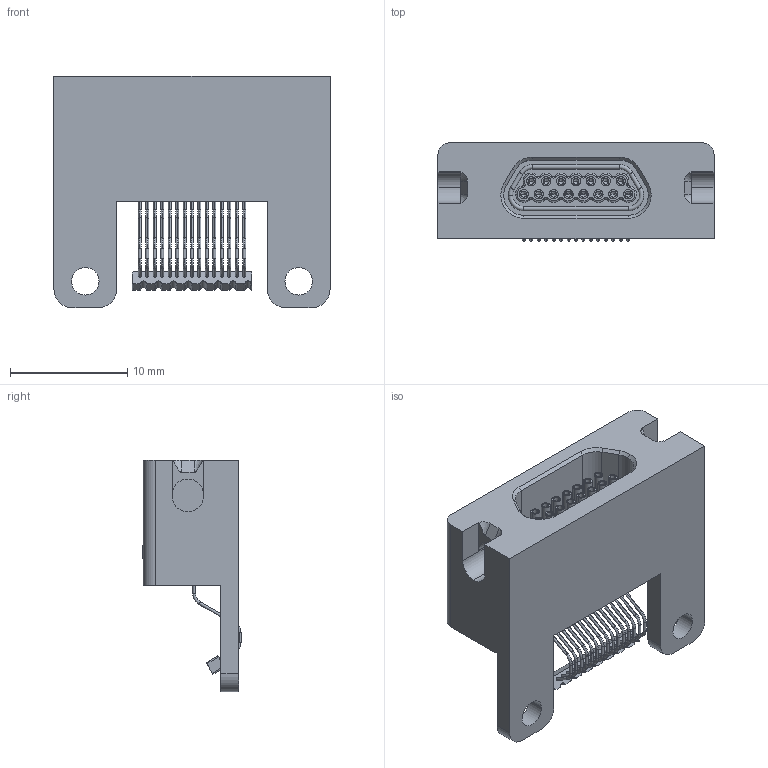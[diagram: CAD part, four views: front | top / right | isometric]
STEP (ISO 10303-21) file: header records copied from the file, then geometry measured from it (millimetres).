
FILE_DESCRIPTION (( 'STEP AP214' ), '1' );
FILE_NAME ('A99650-015 REV B.STEP', '2021-02-05T18:12:13', ( '' ), ( '' ), 'SwSTEP 2.0', 'SolidWorks 2019', '' );
FILE_SCHEMA (( 'AUTOMOTIVE_DESIGN' ));
Length unit declared in the file: inch
Products named in the file (1): A99650-015 REV B
Bounding box: 23.5 x 8.34 x 19.68 mm (x, y, z)
Volume: 1881.3 mm3; surface area: 2111.3 mm2
Topology: 1 solids, 4 shells, 838 faces, 2068 edges, 1279 vertices
Faces by surface type: cylinder 347, plane 240, torus 158, bspline 54, cone 39
Entity records: 38488 total; most frequent: CARTESIAN_POINT 7400, DIRECTION 4466, ORIENTED_EDGE 4064, EDGE_CURVE 2032, AXIS2_PLACEMENT_3D 1769, VERTEX_POINT 1279, CIRCLE 984, EDGE_LOOP 949
